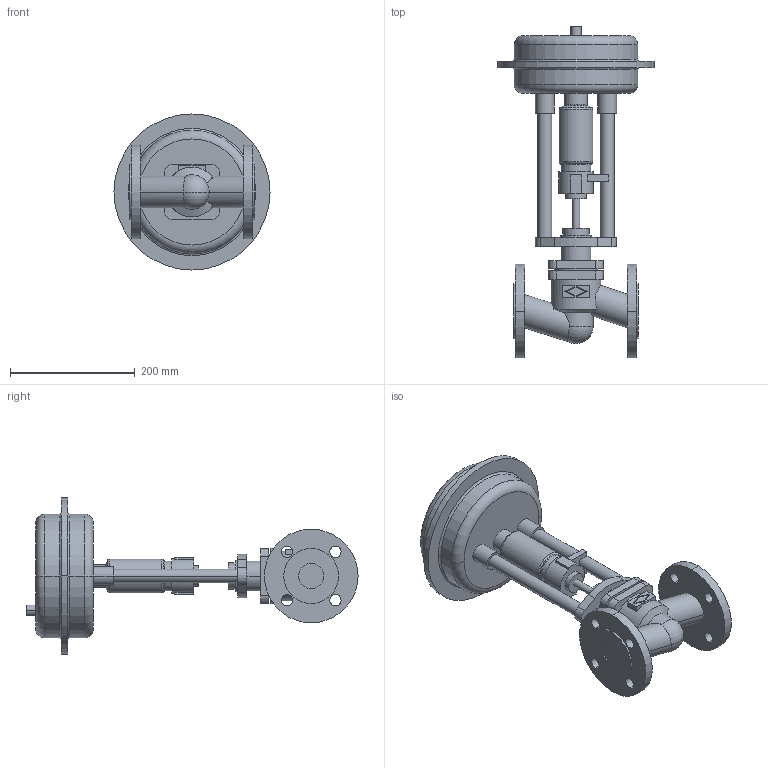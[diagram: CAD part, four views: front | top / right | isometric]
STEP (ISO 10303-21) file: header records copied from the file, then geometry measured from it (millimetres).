
FILE_DESCRIPTION(('OneSpaceDesigner STEP Export'),'2;1');
FILE_NAME('c000001405.stp','2005-02-14T14:03:57',(''),(''),'OneSpace Designer STEP processor (Jan. 2003) for AP203(Solid Model)','OneSpace Designer 12.01D 09-Jul-2004 (C) CoCreate Software GmbH','');
FILE_SCHEMA(('CONFIG_CONTROL_DESIGN'));
Length unit declared in the file: millimetre
Products named in the file (2): 1; 2
Bounding box: 250 x 532 x 250 mm (x, y, z)
Volume: 5041935.3 mm3; surface area: 387384.6 mm2
Topology: 2 solids, 2 shells, 181 faces, 435 edges, 283 vertices
Faces by surface type: cylinder 84, plane 73, torus 16, cone 6, sphere 2
Entity records: 5092 total; most frequent: CARTESIAN_POINT 1035, ORIENTED_EDGE 866, DIRECTION 727, EDGE_CURVE 433, VERTEX_POINT 283, AXIS2_PLACEMENT_3D 264, EDGE_LOOP 224, VECTOR 199
